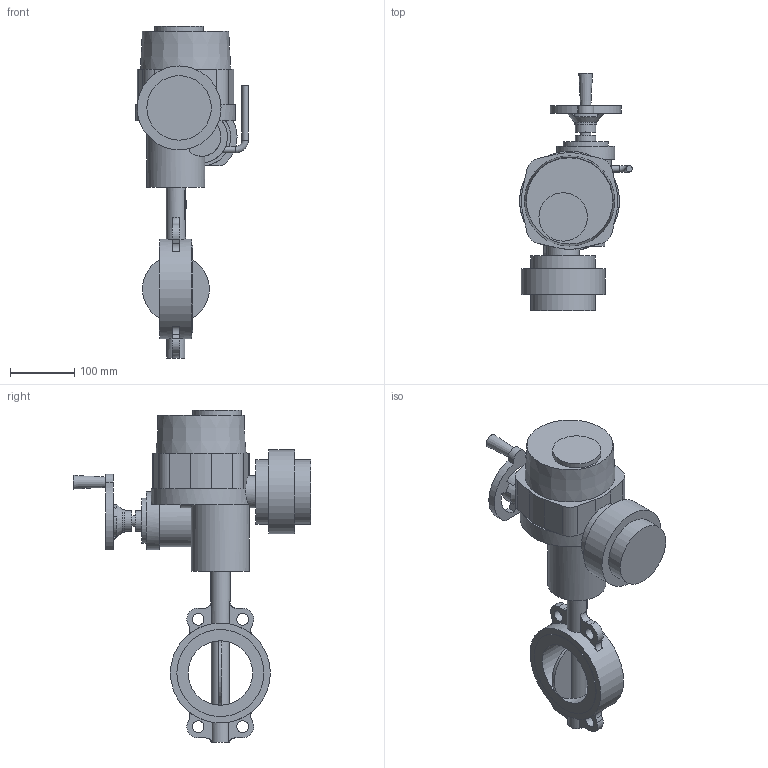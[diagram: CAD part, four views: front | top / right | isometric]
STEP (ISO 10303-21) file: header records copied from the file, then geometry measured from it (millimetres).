
FILE_DESCRIPTION(('STEP AP203'), '1');
FILE_NAME('青蜮铕 017W.Y_DN100_QT.A 008', '', ('UNSPECIFIED'), ('UNSPECIFIED'), 'ASCON STEP Converter 1.6', 'ASCON Math Kernel', '');
FILE_SCHEMA(('CONFIG_CONTROL_DESIGN'));
Length unit declared in the file: millimetre
Bounding box: 175 x 368 x 515 mm (x, y, z)
Volume: 5401920.4 mm3; surface area: 348786.8 mm2
Topology: 1 solids, 1 shells, 184 faces, 447 edges, 292 vertices
Faces by surface type: plane 102, cylinder 74, torus 5, cone 3
Full cylindrical faces by diameter (mm): 6.7 x4, 10 x6, 16 x1, 18 x4, 30 x1, 32 x2, 35 x1, 50 x1, 70 x1, 75 x1, 90 x2, 100 x3, 130 x1, 135 x2, 155 x1
Entity records: 8518 total; most frequent: CARTESIAN_POINT 2678, DIRECTION 931, ORIENTED_EDGE 824, EDGE_CURVE 412, AXIS2_PLACEMENT_3D 368, VERTEX_POINT 292, EDGE_LOOP 264, FACE_BOUND 199
